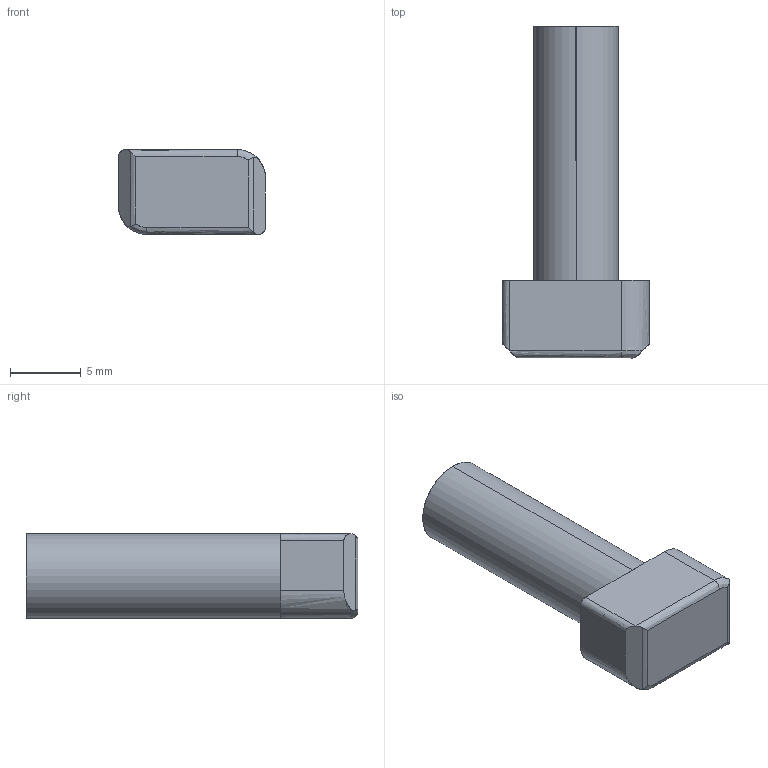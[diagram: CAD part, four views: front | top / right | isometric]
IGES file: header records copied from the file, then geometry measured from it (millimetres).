
Start section: SolidWorks IGES file using analytic representation for surfaces
Global section: file name: C:\Users\admin\Desktop\IGES\J3TB6.igs; native system: SolidWorks 2014; preprocessor: SolidWorks 2014; author: admin_pc; date: 170524.165603; units: millimetre
Bounding box: 10.4 x 23.5 x 6 mm (x, y, z)
Surface area: 618 mm2 (no closed solid volume)
Topology: 0 solids, 0 shells, 22 faces, 230 edges, 230 vertices
Faces by surface type: bspline 12, revolution 10
